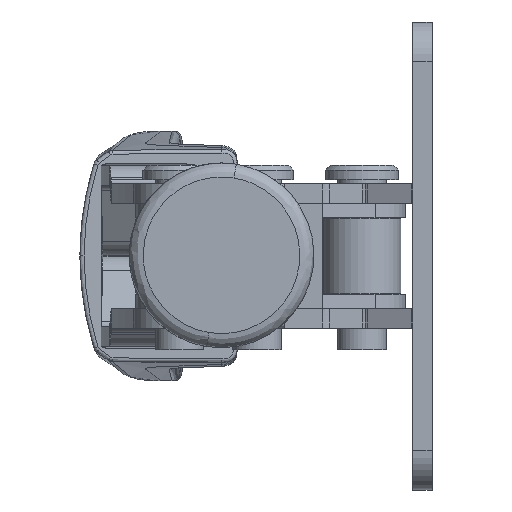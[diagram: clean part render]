
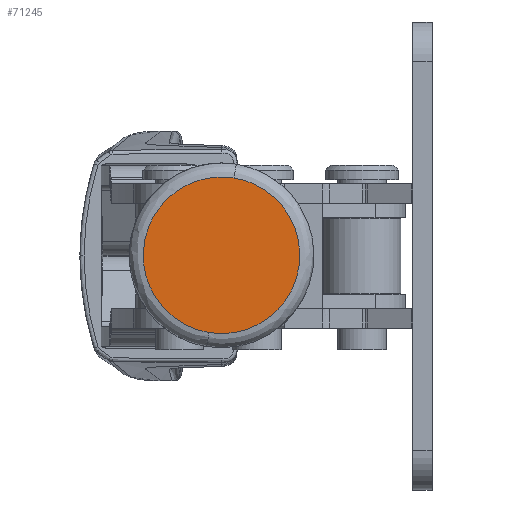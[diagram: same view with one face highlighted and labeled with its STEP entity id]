
A CAD part, left-side view. The second image highlights one B-rep face of the part: STEP entity #71245.
In plain terms, the highlighted planar face has unit normal (-1, 0, 0).
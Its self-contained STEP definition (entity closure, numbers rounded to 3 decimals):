
#71162=CARTESIAN_POINT('',(-82.812,22.879,-7.861));
#71163=VERTEX_POINT('',#71162);
#71164=CARTESIAN_POINT('',(-82.812,20.321,7.989));
#71165=VERTEX_POINT('',#71164);
#71166=CARTESIAN_POINT('',(-82.812,22.879,-7.861));
#71167=CARTESIAN_POINT('',(-82.812,38.728,-5.303));
#71168=CARTESIAN_POINT('',(-82.812,36.171,10.546));
#71169=CARTESIAN_POINT('',(-82.812,20.321,7.989));
#71170=(BOUNDED_CURVE()B_SPLINE_CURVE(3,(#71166,#71167,#71168,#71169),.UNSPECIFIED.,.F.,.U.)B_SPLINE_CURVE_WITH_KNOTS((4,4),(0.,1.),.UNSPECIFIED.)CURVE()GEOMETRIC_REPRESENTATION_ITEM()RATIONAL_B_SPLINE_CURVE((0.957,0.319,0.319,0.957))REPRESENTATION_ITEM(''));
#71171=EDGE_CURVE('',#71163,#71165,#71170,.T.);
#71201=CARTESIAN_POINT('',(-82.812,21.6,0.064));
#71202=DIRECTION('',(0.,0.159,-0.987));
#71203=DIRECTION('',(-1.,0.,0.));
#71204=AXIS2_PLACEMENT_3D('',#71201,#71203,#71202);
#71205=PLANE('',#71204);
#71206=CARTESIAN_POINT('',(-82.812,22.879,-7.861));
#71207=CARTESIAN_POINT('',(-82.812,22.098,-7.987));
#71208=CARTESIAN_POINT('',(-82.812,21.308,-7.958));
#71209=CARTESIAN_POINT('',(-82.812,20.518,-7.929));
#71210=CARTESIAN_POINT('',(-82.812,19.749,-7.747));
#71211=CARTESIAN_POINT('',(-82.812,18.979,-7.565));
#71212=CARTESIAN_POINT('',(-82.812,18.261,-7.236));
#71213=CARTESIAN_POINT('',(-82.812,17.542,-6.907));
#71214=CARTESIAN_POINT('',(-82.812,16.901,-6.444));
#71215=CARTESIAN_POINT('',(-82.812,16.26,-5.981));
#71216=CARTESIAN_POINT('',(-82.812,15.721,-5.402));
#71217=CARTESIAN_POINT('',(-82.812,15.183,-4.823));
#71218=CARTESIAN_POINT('',(-82.812,14.768,-4.15));
#71219=CARTESIAN_POINT('',(-82.812,14.353,-3.477));
#71220=CARTESIAN_POINT('',(-82.812,14.077,-2.736));
#71221=CARTESIAN_POINT('',(-82.812,13.801,-1.995));
#71222=CARTESIAN_POINT('',(-82.812,13.675,-1.215));
#71223=CARTESIAN_POINT('',(-82.812,13.549,-0.434));
#71224=CARTESIAN_POINT('',(-82.812,13.578,0.356));
#71225=CARTESIAN_POINT('',(-82.812,13.607,1.146));
#71226=CARTESIAN_POINT('',(-82.812,13.789,1.915));
#71227=CARTESIAN_POINT('',(-82.812,13.971,2.685));
#71228=CARTESIAN_POINT('',(-82.812,14.3,3.403));
#71229=CARTESIAN_POINT('',(-82.812,14.629,4.122));
#71230=CARTESIAN_POINT('',(-82.812,15.092,4.763));
#71231=CARTESIAN_POINT('',(-82.812,15.555,5.404));
#71232=CARTESIAN_POINT('',(-82.812,16.134,5.943));
#71233=CARTESIAN_POINT('',(-82.812,16.713,6.481));
#71234=CARTESIAN_POINT('',(-82.812,17.386,6.896));
#71235=CARTESIAN_POINT('',(-82.812,18.059,7.311));
#71236=CARTESIAN_POINT('',(-82.812,18.8,7.587));
#71237=CARTESIAN_POINT('',(-82.812,19.541,7.863));
#71238=CARTESIAN_POINT('',(-82.812,20.321,7.989));
#71239=B_SPLINE_CURVE_WITH_KNOTS('',2,(#71206,#71207,#71208,#71209,#71210,#71211,#71212,#71213,#71214,#71215,#71216,#71217,#71218,#71219,#71220,#71221,#71222,#71223,#71224,#71225,#71226,#71227,#71228,#71229,#71230,#71231,#71232,#71233,#71234,#71235,#71236,#71237,#71238),.UNSPECIFIED.,.F.,.U.,(3,2,2,2,2,2,2,2,2,2,2,2,2,2,2,2,3),(0.,0.063,0.125,0.188,0.25,0.313,0.375,0.438,0.5,0.563,0.625,0.688,0.75,0.813,0.875,0.938,1.),.UNSPECIFIED.);
#71240=EDGE_CURVE('',#71163,#71165,#71239,.T.);
#71241=ORIENTED_EDGE('',*,*,#71240,.T.);
#71242=ORIENTED_EDGE('',*,*,#71171,.F.);
#71243=EDGE_LOOP('',(#71241,#71242));
#71244=FACE_OUTER_BOUND('',#71243,.T.);
#71245=ADVANCED_FACE('',(#71244),#71205,.T.);
